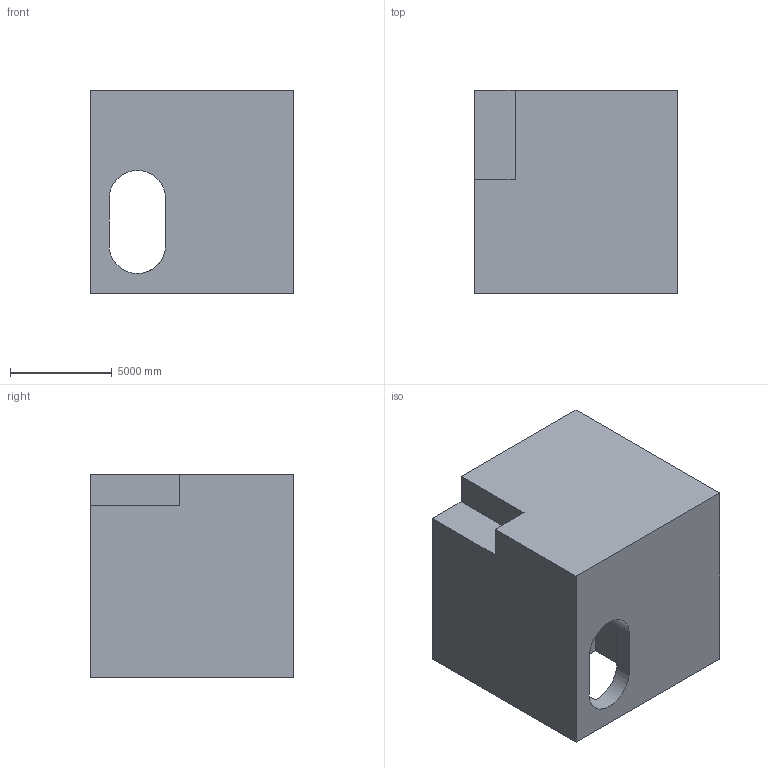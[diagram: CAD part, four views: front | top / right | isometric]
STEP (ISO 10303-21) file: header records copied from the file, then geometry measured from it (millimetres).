
FILE_DESCRIPTION (( 'STEP AP203' ), '1' );
FILE_NAME ('126.STEP', '2022-09-06T15:09:00', ( 'user' ), ( '' ), 'SwSTEP 2.0', 'SolidWorks 2021', '' );
FILE_SCHEMA (( 'CONFIG_CONTROL_DESIGN' ));
Length unit declared in the file: centimetre
Products named in the file (1): 126
Bounding box: 10000 x 10000 x 10000 mm (x, y, z)
Volume: 810650978440.8 mm3; surface area: 732804900.5 mm2
Topology: 1 solids, 1 shells, 19 faces, 54 edges, 36 vertices
Faces by surface type: plane 16, cylinder 3
Entity records: 701 total; most frequent: CARTESIAN_POINT 110, ORIENTED_EDGE 108, DIRECTION 102, EDGE_CURVE 54, LINE 46, VECTOR 46, VERTEX_POINT 36, AXIS2_PLACEMENT_3D 28
